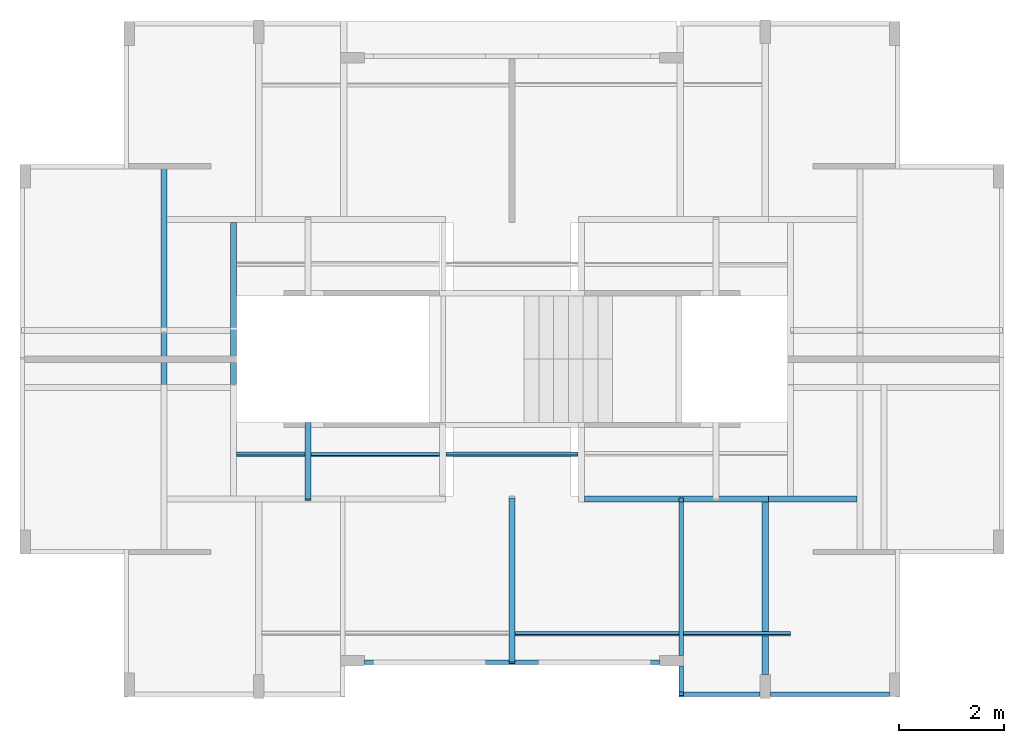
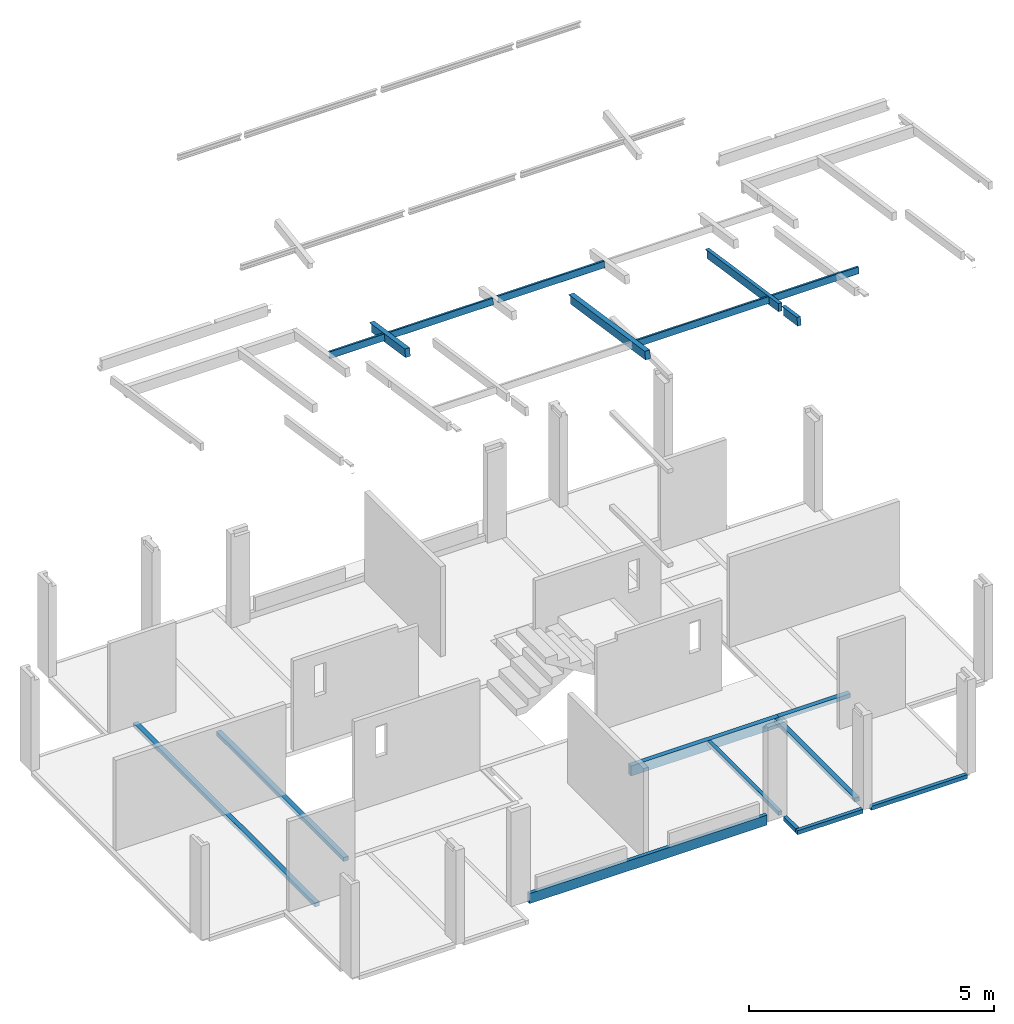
# One storey, part 2 of 9: 16 beams.
"""IFC4 building model written with IfcOpenShell, lengths in metres."""

from ifc_helpers import new_model, entity, si_unit, converted_unit, derived_unit, direction, frame, origin, place, context, subcontext, project, spatial, line, arc, indexed_curve, outline, extrude, source, transform, mapped, material, type_object, type_shapes, element, save


model = new_model("IFC4")

# Units and contexts
model_context = context("Model", 3, precision=1e-05, world=origin(), true_north=direction((6.123031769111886e-17, 1.0)))
body_context = subcontext(model_context, "Body", "Model", "MODEL_VIEW")
ifc_project = project(units=[si_unit("LENGTHUNIT", "METRE"), si_unit("AREAUNIT", "SQUARE_METRE"), si_unit("VOLUMEUNIT", "CUBIC_METRE"), converted_unit("PLANEANGLEUNIT", "DEGREE", entity("IfcRatioMeasure", 0.017453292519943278), si_unit("PLANEANGLEUNIT", "RADIAN"), dimensions=[0, 0, 0, 0, 0, 0, 0]), si_unit("MASSUNIT", "GRAM", prefix="KILO"), derived_unit("MASSDENSITYUNIT", [(si_unit("MASSUNIT", "GRAM", prefix="KILO"), 1), (si_unit("LENGTHUNIT", "METRE"), -3)]), derived_unit("IONCONCENTRATIONUNIT", [(si_unit("MASSUNIT", "GRAM", prefix="KILO"), 1), (si_unit("LENGTHUNIT", "METRE"), -3)]), derived_unit("MOMENTOFINERTIAUNIT", [(si_unit("LENGTHUNIT", "METRE"), 4)]), si_unit("TIMEUNIT", "SECOND"), si_unit("FREQUENCYUNIT", "HERTZ"), si_unit("THERMODYNAMICTEMPERATUREUNIT", "DEGREE_CELSIUS"), derived_unit("THERMALTRANSMITTANCEUNIT", [(si_unit("MASSUNIT", "GRAM", prefix="KILO"), 1), (si_unit("THERMODYNAMICTEMPERATUREUNIT", "KELVIN"), -1), (si_unit("TIMEUNIT", "SECOND"), -3)]), derived_unit("THERMALCONDUCTANCEUNIT", [(si_unit("MASSUNIT", "GRAM", prefix="KILO"), 1), (si_unit("THERMODYNAMICTEMPERATUREUNIT", "KELVIN"), -1), (si_unit("TIMEUNIT", "SECOND"), -3), (si_unit("LENGTHUNIT", "METRE"), 1)]), derived_unit("VOLUMETRICFLOWRATEUNIT", [(si_unit("LENGTHUNIT", "METRE"), 3), (si_unit("TIMEUNIT", "SECOND"), -1)]), derived_unit("MASSFLOWRATEUNIT", [(si_unit("MASSUNIT", "GRAM", prefix="KILO"), 1), (si_unit("TIMEUNIT", "SECOND"), -1)]), derived_unit("ROTATIONALFREQUENCYUNIT", [(si_unit("TIMEUNIT", "SECOND"), -1)]), si_unit("ELECTRICCURRENTUNIT", "AMPERE"), si_unit("ELECTRICVOLTAGEUNIT", "VOLT"), si_unit("POWERUNIT", "WATT"), si_unit("FORCEUNIT", "NEWTON", prefix="KILO"), si_unit("ILLUMINANCEUNIT", "LUX"), si_unit("LUMINOUSFLUXUNIT", "LUMEN"), si_unit("LUMINOUSINTENSITYUNIT", "CANDELA"), derived_unit("USERDEFINED", [(si_unit("MASSUNIT", "GRAM", prefix="KILO"), -1), (si_unit("LENGTHUNIT", "METRE"), -2), (si_unit("TIMEUNIT", "SECOND"), 3), (si_unit("LUMINOUSFLUXUNIT", "LUMEN"), 1)]), derived_unit("USERDEFINED", [(si_unit("MASSUNIT", "GRAM", prefix="KILO"), 1), (si_unit("TIMEUNIT", "SECOND"), -3), (si_unit("LENGTHUNIT", "METRE"), 3), (si_unit("ELECTRICCURRENTUNIT", "AMPERE"), -2)]), derived_unit("SOUNDPOWERUNIT", [(si_unit("MASSUNIT", "GRAM", prefix="KILO"), 1), (si_unit("TIMEUNIT", "SECOND"), -3), (si_unit("LENGTHUNIT", "METRE"), 2)]), derived_unit("SOUNDPRESSUREUNIT", [(si_unit("MASSUNIT", "GRAM", prefix="KILO"), 1), (si_unit("LENGTHUNIT", "METRE"), -1), (si_unit("TIMEUNIT", "SECOND"), -2)]), derived_unit("LINEARVELOCITYUNIT", [(si_unit("LENGTHUNIT", "METRE"), 1), (si_unit("TIMEUNIT", "SECOND"), -1)]), si_unit("PRESSUREUNIT", "PASCAL"), derived_unit("USERDEFINED", [(si_unit("MASSUNIT", "GRAM", prefix="KILO"), 1), (si_unit("LENGTHUNIT", "METRE"), -2), (si_unit("TIMEUNIT", "SECOND"), -2)]), derived_unit("LINEARFORCEUNIT", [(si_unit("MASSUNIT", "GRAM", prefix="KILO"), 1), (si_unit("TIMEUNIT", "SECOND"), -2)]), derived_unit("PLANARFORCEUNIT", [(si_unit("MASSUNIT", "GRAM", prefix="KILO"), 1), (si_unit("LENGTHUNIT", "METRE"), -1), (si_unit("TIMEUNIT", "SECOND"), -2)]), derived_unit("SPECIFICHEATCAPACITYUNIT", [(si_unit("THERMODYNAMICTEMPERATUREUNIT", "KELVIN"), -1), (si_unit("LENGTHUNIT", "METRE"), 2), (si_unit("TIMEUNIT", "SECOND"), -2)]), derived_unit("HEATINGVALUEUNIT", [(si_unit("LENGTHUNIT", "METRE"), 2), (si_unit("TIMEUNIT", "SECOND"), -2)]), derived_unit("VAPORPERMEABILITYUNIT", [(si_unit("LENGTHUNIT", "METRE"), -1), (si_unit("TIMEUNIT", "SECOND"), 1)]), derived_unit("DYNAMICVISCOSITYUNIT", [(si_unit("MASSUNIT", "GRAM", prefix="KILO"), 1), (si_unit("TIMEUNIT", "SECOND"), -1), (si_unit("LENGTHUNIT", "METRE"), -1)]), derived_unit("THERMALEXPANSIONCOEFFICIENTUNIT", [(si_unit("THERMODYNAMICTEMPERATUREUNIT", "KELVIN"), -1)]), derived_unit("MODULUSOFELASTICITYUNIT", [(si_unit("MASSUNIT", "GRAM", prefix="KILO"), 1), (si_unit("LENGTHUNIT", "METRE"), -1), (si_unit("TIMEUNIT", "SECOND"), -2)]), derived_unit("ISOTHERMALMOISTURECAPACITYUNIT", [(si_unit("LENGTHUNIT", "METRE"), 3), (si_unit("MASSUNIT", "GRAM", prefix="KILO"), -1)]), derived_unit("MOISTUREDIFFUSIVITYUNIT", [(si_unit("TIMEUNIT", "SECOND"), -1), (si_unit("LENGTHUNIT", "METRE"), 2)])], contexts=[model_context])

# Site, building, storey
site_placement = place(None, origin())
site = spatial("IfcSite", under=ifc_project, at=site_placement, Name="Default", CompositionType="ELEMENT")
building_placement = place(site_placement, origin())
building = spatial("IfcBuilding", under=site, at=building_placement, Name="Las nubes", CompositionType="ELEMENT")
storey_placement = place(building_placement, frame((0.0, 0.0, 2.3500000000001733)))
storey = spatial("IfcBuildingStorey", under=building, at=storey_placement, Name="PISO 2", CompositionType="ELEMENT", Elevation=2.3500000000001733)

# Beams
ifc_material_1 = material(Name="Concrete, Cast In Situ", Category="Materials")
beam_type_1 = type_object("IfcBeamType", Name="M_Concrete-Rectangular Beam:(0.085x0.25)", PredefinedType="BEAM", material=ifc_material_1)
shared_shape_1 = source(origin(), body_context, "Body", "SweptSolid", [
    extrude(outline(indexed_curve([(-0.12500000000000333, -0.04249999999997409), (0.1249999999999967, -0.04250000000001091), (0.12500000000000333, 0.04249999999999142), (-0.1249999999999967, 0.042500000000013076), (-0.12500000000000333, -0.04249999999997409)], self_intersect=False)), frame((6.517499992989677, -12.18250002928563, 2.3750000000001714), z_axis=(1.0, 0.0, 0.0), x_axis=(0.0, 0.0, -1.0)), (0.0, 0.0, 1.0), 5.6100000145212),
])
type_shapes(beam_type_1, [shared_shape_1])
beam_1_placement = place(storey_placement, frame((0.0, 0.0, -2.3500000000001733)))
element("IfcBeam", 1, at=beam_1_placement, inside=storey, type_object=beam_type_1, material=ifc_material_1, Name="M_Concrete-Rectangular Beam:(0.085x0.25)", ObjectType="M_Concrete-Rectangular Beam:(0.085x0.25)", PredefinedType="BEAM", context=body_context, shape_type="MappedRepresentation", body=[
    mapped(shared_shape_1, transform((0.0, 0.0, 0.0), scale=1.0)),
])
ifc_material_2 = material(Name="Concrete - Cast-in-Place Concrete - 28 MPa SLAB", Category="Materials")
beam_type_2 = type_object("IfcBeamType", Name="M_Concrete-Rectangular Beam:(0.085x0.10)", PredefinedType="BEAM", material=ifc_material_2)
shared_shape_2 = source(origin(), body_context, "Body", "SweptSolid", [
    extrude(outline(indexed_curve([(-0.050000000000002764, -0.04249999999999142), (0.04999999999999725, -0.042500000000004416), (0.050000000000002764, 0.04249999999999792), (-0.04999999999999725, 0.042500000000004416), (-0.050000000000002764, -0.04249999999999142)], self_intersect=False)), frame((14.235000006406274, -12.797498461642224, 2.3000000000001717), z_axis=(1.0, 0.0, 0.0), x_axis=(0.0, 0.0, -1.0)), (0.0, 0.0, 1.0), 2.2624999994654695),
    extrude(outline(indexed_curve([(-0.05000000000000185, -0.04249999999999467), (0.04999999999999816, -0.042500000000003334), (0.05000000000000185, 0.042499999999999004), (-0.04999999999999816, 0.042500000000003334), (-0.05000000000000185, -0.04249999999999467)], self_intersect=False)), frame((12.49250000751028, -12.797498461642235, 2.3000000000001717), z_axis=(1.0, 0.0, 0.0), x_axis=(0.0, 0.0, -1.0)), (0.0, 0.0, 1.0), 1.5424999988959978),
])
type_shapes(beam_type_2, [shared_shape_2])
beam_2_placement = place(storey_placement, frame((0.0, 0.0, -2.3500000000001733)))
element("IfcBeam", 2, at=beam_2_placement, inside=storey, type_object=beam_type_2, material=ifc_material_2, Name="M_Concrete-Rectangular Beam:(0.085x0.10)", ObjectType="M_Concrete-Rectangular Beam:(0.085x0.10)", PredefinedType="BEAM", context=body_context, shape_type="MappedRepresentation", body=[
    mapped(shared_shape_2, transform((0.0, 0.0, 0.0), scale=1.0)),
])
beam_type_3 = type_object("IfcBeamType", Name="M_Concrete-Rectangular Beam:(0.115x0.25)", PredefinedType="BEAM", material=ifc_material_2)
shared_shape_3 = source(origin(), body_context, "Body", "SweptSolid", [
    extrude(outline(indexed_curve([(-0.12500000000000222, -0.057499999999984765), (0.12499999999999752, -0.05750000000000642), (0.1250000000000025, 0.05749999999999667), (-0.12499999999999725, 0.0575000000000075), (-0.12500000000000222, -0.057499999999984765)], self_intersect=False)), frame((10.697499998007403, -9.082500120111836, 2.2250000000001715), z_axis=(1.0, 0.0, 0.0), x_axis=(0.0, 0.0, -1.0)), (0.0, 0.0, 1.0), 3.495000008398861),
])
type_shapes(beam_type_3, [shared_shape_3])
beam_3_placement = place(storey_placement, frame((0.0, 0.0, -2.3500000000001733)))
element("IfcBeam", 3, at=beam_3_placement, inside=storey, type_object=beam_type_3, material=ifc_material_2, Name="M_Concrete-Rectangular Beam:(0.115x0.25)", ObjectType="M_Concrete-Rectangular Beam:(0.115x0.25)", PredefinedType="BEAM", context=body_context, shape_type="MappedRepresentation", body=[
    mapped(shared_shape_3, transform((0.0, 0.0, 0.0), scale=1.0)),
])
beam_type_4 = type_object("IfcBeamType", Name="M_Concrete-Rectangular Beam:(0.115x0.10)", PredefinedType="BEAM", material=ifc_material_1)
shared_shape_4 = source(origin(), body_context, "Body", "SweptSolid", [
    extrude(outline(indexed_curve([(-0.05750000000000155, -0.05), (0.05750000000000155, -0.05), (0.05750000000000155, 0.05), (-0.05750000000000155, 0.05), (-0.05750000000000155, -0.05)], self_intersect=False)), frame((2.710001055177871, -10.140000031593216, 2.3000000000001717), z_axis=(0.0, 1.0, 0.0), x_axis=(-1.0, 0.0, 0.0)), (0.0, 0.0, 1.0), 7.430000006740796),
])
type_shapes(beam_type_4, [shared_shape_4])
beam_4_placement = place(storey_placement, frame((0.0, 0.0, -2.3500000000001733)))
element("IfcBeam", 4, at=beam_4_placement, inside=storey, type_object=beam_type_4, material=ifc_material_1, Name="M_Concrete-Rectangular Beam:(0.115x0.10)", ObjectType="M_Concrete-Rectangular Beam:(0.115x0.10)", PredefinedType="BEAM", context=body_context, shape_type="MappedRepresentation", body=[
    mapped(shared_shape_4, transform((0.0, 0.0, 0.0), scale=1.0)),
])
beam_type_5 = type_object("IfcBeamType", Name="M_Concrete-Rectangular Beam:(0.115x0.10)", PredefinedType="BEAM", material=ifc_material_1)
shared_shape_5 = source(origin(), body_context, "Body", "SweptSolid", [
    extrude(outline(indexed_curve([(-0.05750000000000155, -0.05), (0.05750000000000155, -0.05), (0.05750000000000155, 0.05), (-0.05750000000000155, 0.05), (-0.05750000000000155, -0.05)], self_intersect=False)), frame((4.029999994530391, -9.025000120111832, 2.3000000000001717), z_axis=(0.0, 1.0, 0.0), x_axis=(-1.0, 0.0, 0.0)), (0.0, 0.0, 1.0), 5.200000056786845),
])
type_shapes(beam_type_5, [shared_shape_5])
beam_5_placement = place(storey_placement, frame((0.0, 0.0, -2.3500000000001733)))
element("IfcBeam", 5, at=beam_5_placement, inside=storey, type_object=beam_type_5, material=ifc_material_1, Name="M_Concrete-Rectangular Beam:(0.115x0.10)", ObjectType="M_Concrete-Rectangular Beam:(0.115x0.10)", PredefinedType="BEAM", context=body_context, shape_type="MappedRepresentation", body=[
    mapped(shared_shape_5, transform((0.0, 0.0, 0.0), scale=1.0)),
])
beam_type_6 = type_object("IfcBeamType", Name="M_Concrete-Rectangular Beam:(0.115x0.10)", PredefinedType="BEAM", material=ifc_material_2)
shared_shape_6 = source(origin(), body_context, "Body", "SweptSolid", [
    extrude(outline(indexed_curve([(-0.05000000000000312, -0.057499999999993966), (0.049999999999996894, -0.0575000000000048), (0.05000000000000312, 0.0574999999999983), (-0.049999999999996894, 0.057500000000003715), (-0.05000000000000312, -0.057499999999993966)], self_intersect=False)), frame((14.192500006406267, -9.082499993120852, 2.3000000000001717), z_axis=(1.0, 0.0, 0.0), x_axis=(0.0, 0.0, -1.0)), (0.0, 0.0, 1.0), 1.6849989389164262),
])
type_shapes(beam_type_6, [shared_shape_6])
beam_6_placement = place(storey_placement, frame((0.0, 0.0, -2.3500000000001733)))
element("IfcBeam", 6, at=beam_6_placement, inside=storey, type_object=beam_type_6, material=ifc_material_2, Name="M_Concrete-Rectangular Beam:(0.115x0.10)", ObjectType="M_Concrete-Rectangular Beam:(0.115x0.10)", PredefinedType="BEAM", context=body_context, shape_type="MappedRepresentation", body=[
    mapped(shared_shape_6, transform((0.0, 0.0, 0.0), scale=1.0)),
])
beam_type_7 = type_object("IfcBeamType", Name="M_Concrete-Rectangular Beam:(0.085x0.10)", PredefinedType="BEAM", material=ifc_material_2)
shared_shape_7 = source(origin(), body_context, "Body", "SweptSolid", [
    extrude(outline(indexed_curve([(-0.04250000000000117, -0.05), (0.04250000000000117, -0.05), (0.04250000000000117, 0.05), (-0.04250000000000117, 0.05), (-0.04250000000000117, -0.05)], self_intersect=False)), frame((12.535000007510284, -12.055000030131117, 2.3000000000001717), z_axis=(0.0, 1.0, 0.0), x_axis=(-1.0, 0.0, 0.0)), (0.0, 0.0, 1.0), 2.9149999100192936),
    extrude(outline(indexed_curve([(-0.04250000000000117, -0.05), (0.042499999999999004, -0.05), (0.04250000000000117, 0.05), (-0.042500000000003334, 0.05), (-0.04250000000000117, -0.05)], self_intersect=False)), frame((12.535000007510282, -12.754998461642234, 2.3000000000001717), z_axis=(0.0, 1.0, 0.0), x_axis=(-1.0, 0.0, 0.0)), (0.0, 0.0, 1.0), 0.4999984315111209),
])
type_shapes(beam_type_7, [shared_shape_7])
beam_7_placement = place(storey_placement, frame((0.0, 0.0, -2.3500000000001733)))
element("IfcBeam", 7, at=beam_7_placement, inside=storey, type_object=beam_type_7, material=ifc_material_2, Name="M_Concrete-Rectangular Beam:(0.085x0.10)", ObjectType="M_Concrete-Rectangular Beam:(0.085x0.10)", PredefinedType="BEAM", context=body_context, shape_type="MappedRepresentation", body=[
    mapped(shared_shape_7, transform((0.0, 0.0, 0.0), scale=1.0)),
])
beam_type_8 = type_object("IfcBeamType", Name="M_Concrete-Rectangular Beam:(0.115x0.10)", PredefinedType="BEAM", material=ifc_material_1)
shared_shape_8 = source(origin(), body_context, "Body", "SweptSolid", [
    extrude(outline(indexed_curve([(-0.057500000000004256, -0.05), (0.05750000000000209, -0.05), (0.05750000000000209, 0.05), (-0.05750000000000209, 0.05), (-0.057500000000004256, -0.05)], self_intersect=False)), frame((14.135000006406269, -12.420000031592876, 2.3000000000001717), z_axis=(0.0, 1.0, 0.0), x_axis=(-1.0, 0.0, 0.0)), (0.0, 0.0, 1.0), 3.2799999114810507),
])
type_shapes(beam_type_8, [shared_shape_8])
beam_8_placement = place(storey_placement, frame((0.0, 0.0, -2.3500000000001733)))
element("IfcBeam", 8, at=beam_8_placement, inside=storey, type_object=beam_type_8, material=ifc_material_1, Name="M_Concrete-Rectangular Beam:(0.115x0.10)", ObjectType="M_Concrete-Rectangular Beam:(0.115x0.10)", PredefinedType="BEAM", context=body_context, shape_type="MappedRepresentation", body=[
    mapped(shared_shape_8, transform((0.0, 0.0, 0.0), scale=1.0)),
])
ifc_material_3 = material(Name="Concrete - Cast-in-Place Concrete - 35 MPa", Category="Materials")
beam_type_9 = type_object("IfcBeamType", Name="M_Concrete-Rectangular Beam:(0.12x0.20)", PredefinedType="BEAM", material=ifc_material_3)
shared_shape_9 = source(origin(), body_context, "Body", "SweptSolid", [
    extrude(outline(indexed_curve([(-1.1506953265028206, -0.12493119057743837), (-1.1199368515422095, -0.12493119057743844), (-1.067607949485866, -0.12493119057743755), (1.9558424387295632, -0.12493119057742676), (1.9283901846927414, 0.05808383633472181), (1.9989857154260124, 0.06867316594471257), (1.9989857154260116, 0.0750688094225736), (-1.1077198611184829, 0.07506880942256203), (-1.1348534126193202, 0.07506880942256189), (-1.1506953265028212, 0.07506880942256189), (-1.1506953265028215, 0.07269252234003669), (-1.1506953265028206, -0.12493119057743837)], self_intersect=False)), frame((9.262500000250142, -11.05567133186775, 14.804817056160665), z_axis=(1.0, 0.0, 0.0), x_axis=(0.0, 0.9889363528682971, -0.14834045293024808)), (0.0, 0.0, 1.0), 0.12000000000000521),
])
type_shapes(beam_type_9, [shared_shape_9])
beam_9_placement = place(storey_placement, frame((0.0, 0.0, -2.3500000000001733)))
element("IfcBeam", 9, at=beam_9_placement, inside=storey, type_object=beam_type_9, material=ifc_material_3, Name="M_Concrete-Rectangular Beam:(0.12x0.20)", ObjectType="M_Concrete-Rectangular Beam:(0.12x0.20)", PredefinedType="BEAM", context=body_context, shape_type="MappedRepresentation", body=[
    mapped(shared_shape_9, transform((0.0, 0.0, 0.0), scale=1.0)),
])
beam_type_10 = type_object("IfcBeamType", Name="M_Concrete-Rectangular Beam:(0.085x0.20)", PredefinedType="BEAM", material=ifc_material_1)
shared_shape_10 = source(origin(), body_context, "Body", "SweptSolid", [
    extrude(outline(indexed_curve([(-1.0208746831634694, -0.07056343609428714), (1.9998799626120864, -0.07056343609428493), (1.9698799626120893, 0.12943656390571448), (-0.9777314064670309, 0.12943656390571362), (-0.9502791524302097, -0.053578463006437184), (-1.02087468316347, -0.06416779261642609), (-1.0208746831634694, -0.07056343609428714)], self_intersect=False)), frame((12.492500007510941, -10.08771344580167, 14.664179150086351), z_axis=(1.0, 0.0, 0.0), x_axis=(0.0, -0.9889363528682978, 0.1483404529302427)), (0.0, 0.0, 1.0), 0.08500000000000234),
    extrude(outline(indexed_curve([(-0.3588825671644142, -0.11789851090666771), (0.23485442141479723, -0.11789851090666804), (0.20643053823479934, 0.07159404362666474), (0.2764801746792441, 0.08210148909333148), (-0.35888256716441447, 0.08210148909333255), (-0.3588825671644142, -0.11789851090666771)], self_intersect=False)), frame((12.492500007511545, -12.469766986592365, 15.009820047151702), z_axis=(1.0, 0.0, 0.0), x_axis=(0.0, 0.9889363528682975, -0.14834045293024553)), (0.0, 0.0, 1.0), 0.08500000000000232),
])
type_shapes(beam_type_10, [shared_shape_10])
beam_10_placement = place(storey_placement, frame((0.0, 0.0, -2.3500000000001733)))
element("IfcBeam", 10, at=beam_10_placement, inside=storey, type_object=beam_type_10, material=ifc_material_1, Name="M_Concrete-Rectangular Beam:(0.085x0.20)", ObjectType="M_Concrete-Rectangular Beam:(0.085x0.20)", PredefinedType="BEAM", context=body_context, shape_type="MappedRepresentation", body=[
    mapped(shared_shape_10, transform((0.0, 0.0, 0.0), scale=1.0)),
])
beam_type_11 = type_object("IfcBeamType", Name="M_Concrete-Rectangular Beam:(0.115x0.20)", PredefinedType="BEAM", material=ifc_material_1)
shared_shape_11 = source(origin(), body_context, "Body", "SweptSolid", [
    extrude(outline(indexed_curve([(-0.953189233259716, -0.1307775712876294), (0.44949765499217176, -0.13077757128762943), (0.4217264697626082, 0.05436366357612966), (0.5176128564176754, 0.06874662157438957), (0.5175414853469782, 0.06922242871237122), (-0.953189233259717, 0.06922242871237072), (-0.953189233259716, -0.1307775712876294)], self_intersect=False)), frame((5.387499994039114, -8.150124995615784, 14.374896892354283), z_axis=(1.0, 0.0, 0.0), x_axis=(0.0, 0.9889363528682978, -0.14834045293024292)), (0.0, 0.0, 1.0), 0.11500000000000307),
])
type_shapes(beam_type_11, [shared_shape_11])
beam_11_placement = place(storey_placement, frame((0.0, 0.0, -2.3500000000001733)))
element("IfcBeam", 11, at=beam_11_placement, inside=storey, type_object=beam_type_11, material=ifc_material_1, Name="M_Concrete-Rectangular Beam:(0.115x0.20)", ObjectType="M_Concrete-Rectangular Beam:(0.115x0.20)", PredefinedType="BEAM", context=body_context, shape_type="MappedRepresentation", body=[
    mapped(shared_shape_11, transform((0.0, 0.0, 0.0), scale=1.0)),
])
ifc_material_4 = material(Name="Steel - 300+", Category="Materials")
beam_type_12 = type_object("IfcBeamType", Name="AUS-C Purlin:CR-1", PredefinedType="BEAM", material=ifc_material_4)
shared_shape_12 = source(origin(), body_context, "Body", "SweptSolid", [
    extrude(outline(indexed_curve([(-0.07614999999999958, -0.023850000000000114), (-0.05965000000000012, -0.023850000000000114), (-0.05965000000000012, -0.02185000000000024), (-0.07615000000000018, -0.02185000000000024), (-0.07721066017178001, -0.021410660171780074), (-0.07765000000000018, -0.020350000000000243), (-0.0776500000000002, 0.03265000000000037), (-0.07721066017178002, 0.033710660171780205), (-0.07615000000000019, 0.03415000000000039), (0.07334999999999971, 0.03415000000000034), (0.07688553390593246, 0.03268553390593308), (0.07834999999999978, 0.029150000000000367), (0.07834999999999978, -0.02035000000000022), (0.07791066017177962, -0.021410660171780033), (0.0768499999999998, -0.02185000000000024), (0.060349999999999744, -0.02185000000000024), (0.060349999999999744, -0.023850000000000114), (0.07685000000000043, -0.023850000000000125), (0.07932487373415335, -0.022824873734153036), (0.08035000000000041, -0.020350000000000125), (0.08035000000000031, 0.029149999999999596), (0.07829974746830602, 0.034099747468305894), (0.0733499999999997, 0.03615000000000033), (-0.07614999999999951, 0.036150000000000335), (-0.07862487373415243, 0.03512487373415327), (-0.07964999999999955, 0.032650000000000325), (-0.0796499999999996, -0.020350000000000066), (-0.07862487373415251, -0.02282487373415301)], segments=[line(1, 2, 3, 4), arc(4, 5, 6), line(6, 7), arc(7, 8, 9), line(9, 10), arc(10, 11, 12), line(12, 13), arc(13, 14, 15), line(15, 16, 17, 18), arc(18, 19, 20), line(20, 21), arc(21, 22, 23), line(23, 24), arc(24, 25, 26), line(26, 27), arc(27, 28, 1)], self_intersect=False)), frame((-1.0395378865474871, -0.03415000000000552, 0.0003499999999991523), z_axis=(1.0, 0.0, 0.0), x_axis=(0.0, 0.0, -1.0)), (0.0, 0.0, 1.0), 2.0355439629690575),
])
type_shapes(beam_type_12, [shared_shape_12])
beam_12_placement = place(storey_placement, frame((13.575000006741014, -11.671145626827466, 12.54215184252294), z_axis=(0.0, 0.14834045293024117, 0.9889363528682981), x_axis=(-1.0, 0.0, 0.0)))
element("IfcBeam", 12, at=beam_12_placement, inside=storey, type_object=beam_type_12, material=ifc_material_4, Name="AUS-C Purlin:CR-1", ObjectType="AUS-C Purlin:CR-1", PredefinedType="BEAM", context=body_context, shape_type="MappedRepresentation", body=[
    mapped(shared_shape_12, transform((0.0, 0.0, 0.0), scale=1.0)),
])
beam_type_13 = type_object("IfcBeamType", Name="AUS-C Purlin:CR-1", PredefinedType="BEAM", material=ifc_material_4)
shared_shape_13 = source(origin(), body_context, "Body", "SweptSolid", [
    extrude(outline(indexed_curve([(-0.0761499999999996, -0.03615000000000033), (0.07334999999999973, -0.036150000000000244), (0.07829974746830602, -0.03409974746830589), (0.0803500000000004, -0.02914999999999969), (0.08035000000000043, 0.020350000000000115), (0.07932487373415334, 0.022824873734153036), (0.07685000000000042, 0.023850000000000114), (0.060349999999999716, 0.023850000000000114), (0.060349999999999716, 0.02185000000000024), (0.07684999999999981, 0.02185000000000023), (0.07791066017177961, 0.021410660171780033), (0.07834999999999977, 0.020350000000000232), (0.07834999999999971, -0.029150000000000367), (0.07688553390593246, -0.032685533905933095), (0.0733499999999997, -0.03415000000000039), (-0.0761500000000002, -0.03415000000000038), (-0.07721066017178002, -0.033710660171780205), (-0.0776500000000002, -0.03265000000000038), (-0.0776500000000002, 0.02035000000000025), (-0.07721066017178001, 0.021410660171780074), (-0.0761500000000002, 0.02185000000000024), (-0.059650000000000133, 0.02185000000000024), (-0.059650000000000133, 0.023850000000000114), (-0.0761499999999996, 0.023850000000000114), (-0.07862487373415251, 0.02282487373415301), (-0.07964999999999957, 0.020350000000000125), (-0.07964999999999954, -0.032650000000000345), (-0.07862487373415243, -0.03512487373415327)], segments=[line(1, 2), arc(2, 3, 4), line(4, 5), arc(5, 6, 7), line(7, 8, 9, 10), arc(10, 11, 12), line(12, 13), arc(13, 14, 15), line(15, 16), arc(16, 17, 18), line(18, 19), arc(19, 20, 21), line(21, 22, 23, 24), arc(24, 25, 26), line(26, 27), arc(27, 28, 1)], self_intersect=False)), frame((-1.2217510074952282, 0.03415000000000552, 0.00034999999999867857), z_axis=(1.0, 0.0, 0.0), x_axis=(0.0, 0.0, -1.0)), (0.0, 0.0, 1.0), 2.443172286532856),
])
type_shapes(beam_type_13, [shared_shape_13])
beam_13_placement = place(storey_placement, frame((6.724999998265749, -8.264557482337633, 12.031163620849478), z_axis=(0.0, 0.14834045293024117, 0.9889363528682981), x_axis=(1.0, 0.0, 0.0)))
element("IfcBeam", 13, at=beam_13_placement, inside=storey, type_object=beam_type_13, material=ifc_material_4, Name="AUS-C Purlin:CR-1", ObjectType="AUS-C Purlin:CR-1", PredefinedType="BEAM", context=body_context, shape_type="MappedRepresentation", body=[
    mapped(shared_shape_13, transform((0.0, 0.0, 0.0), scale=1.0)),
])
beam_type_14 = type_object("IfcBeamType", Name="AUS-C Purlin:CR-1", PredefinedType="BEAM", material=ifc_material_4)
shared_shape_14 = source(origin(), body_context, "Body", "SweptSolid", [
    extrude(outline(indexed_curve([(-0.07614999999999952, -0.03615000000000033), (0.07334999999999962, -0.036150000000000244), (0.0782997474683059, -0.03409974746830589), (0.08035000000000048, -0.02914999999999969), (0.08035000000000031, 0.020350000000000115), (0.07932487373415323, 0.022824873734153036), (0.07685000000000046, 0.023850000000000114), (0.06034999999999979, 0.023850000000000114), (0.06034999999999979, 0.02185000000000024), (0.07684999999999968, 0.02185000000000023), (0.07791066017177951, 0.02141066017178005), (0.07834999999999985, 0.020350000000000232), (0.0783499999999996, -0.029150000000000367), (0.07688553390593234, -0.032685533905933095), (0.07334999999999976, -0.03415000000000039), (-0.07615000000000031, -0.03415000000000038), (-0.07721066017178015, -0.033710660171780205), (-0.07765000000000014, -0.03265000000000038), (-0.07765000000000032, 0.02035000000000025), (-0.07721066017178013, 0.021410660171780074), (-0.07615000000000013, 0.02185000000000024), (-0.05965000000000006, 0.02185000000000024), (-0.05965000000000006, 0.023850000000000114), (-0.0761499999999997, 0.023850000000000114), (-0.07862487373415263, 0.022824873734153), (-0.07964999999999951, 0.020350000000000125), (-0.07964999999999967, -0.032650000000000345), (-0.07862487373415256, -0.03512487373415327)], segments=[line(1, 2), arc(2, 3, 4), line(4, 5), arc(5, 6, 7), line(7, 8, 9, 10), arc(10, 11, 12), line(12, 13), arc(13, 14, 15), line(15, 16), arc(16, 17, 18), line(18, 19), arc(19, 20, 21), line(21, 22, 23, 24), arc(24, 25, 26), line(26, 27), arc(27, 28, 1)], self_intersect=False)), frame((-1.257024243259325, 0.03415000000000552, 0.00034999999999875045), z_axis=(1.0, 0.0, 0.0), x_axis=(0.0, 0.0, -1.0)), (0.0, 0.0, 1.0), 2.5139970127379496),
])
type_shapes(beam_type_14, [shared_shape_14])
beam_14_placement = place(storey_placement, frame((9.322500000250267, -8.257956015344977, 12.030173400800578), z_axis=(0.0, 0.14834045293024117, 0.9889363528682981), x_axis=(1.0, 0.0, 0.0)))
element("IfcBeam", 14, at=beam_14_placement, inside=storey, type_object=beam_type_14, material=ifc_material_4, Name="AUS-C Purlin:CR-1", ObjectType="AUS-C Purlin:CR-1", PredefinedType="BEAM", context=body_context, shape_type="MappedRepresentation", body=[
    mapped(shared_shape_14, transform((0.0, 0.0, 0.0), scale=1.0)),
])
beam_type_15 = type_object("IfcBeamType", Name="AUS-C Purlin:CR-1", PredefinedType="BEAM", material=ifc_material_4)
shared_shape_15 = source(origin(), body_context, "Body", "SweptSolid", [
    extrude(outline(indexed_curve([(-0.07614999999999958, -0.03615000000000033), (0.0733499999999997, -0.036150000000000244), (0.07829974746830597, -0.03409974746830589), (0.08035000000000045, -0.02914999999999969), (0.08035000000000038, 0.020350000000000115), (0.0793248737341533, 0.022824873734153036), (0.07685000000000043, 0.023850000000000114), (0.060349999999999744, 0.023850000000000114), (0.060349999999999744, 0.02185000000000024), (0.07684999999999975, 0.02185000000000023), (0.07791066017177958, 0.02141066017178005), (0.07834999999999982, 0.020350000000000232), (0.07834999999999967, -0.029150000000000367), (0.0768855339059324, -0.032685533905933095), (0.07334999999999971, -0.03415000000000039), (-0.07615000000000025, -0.03415000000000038), (-0.07721066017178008, -0.033710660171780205), (-0.07765000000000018, -0.03265000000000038), (-0.07765000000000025, 0.02035000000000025), (-0.07721066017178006, 0.021410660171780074), (-0.07615000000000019, 0.02185000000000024), (-0.05965000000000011, 0.02185000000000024), (-0.05965000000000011, 0.023850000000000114), (-0.07614999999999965, 0.023850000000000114), (-0.07862487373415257, 0.02282487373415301), (-0.07964999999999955, 0.020350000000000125), (-0.0796499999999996, -0.032650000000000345), (-0.07862487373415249, -0.03512487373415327)], segments=[line(1, 2), arc(2, 3, 4), line(4, 5), arc(5, 6, 7), line(7, 8, 9, 10), arc(10, 11, 12), line(12, 13), arc(13, 14, 15), line(15, 16), arc(16, 17, 18), line(18, 19), arc(19, 20, 21), line(21, 22, 23, 24), arc(24, 25, 26), line(26, 27), arc(27, 28, 1)], self_intersect=False)), frame((-0.6492510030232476, 0.03415000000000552, 0.00034999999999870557), z_axis=(1.0, 0.0, 0.0), x_axis=(0.0, 0.0, -1.0)), (0.0, 0.0, 1.0), 1.2973507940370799),
])
type_shapes(beam_type_15, [shared_shape_15])
beam_15_placement = place(storey_placement, frame((4.737499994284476, -8.257956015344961, 12.030173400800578), z_axis=(0.0, 0.14834045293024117, 0.9889363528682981), x_axis=(1.0, 0.0, 0.0)))
element("IfcBeam", 15, at=beam_15_placement, inside=storey, type_object=beam_type_15, material=ifc_material_4, Name="AUS-C Purlin:CR-1", ObjectType="AUS-C Purlin:CR-1", PredefinedType="BEAM", context=body_context, shape_type="MappedRepresentation", body=[
    mapped(shared_shape_15, transform((0.0, 0.0, 0.0), scale=1.0)),
])
beam_type_16 = type_object("IfcBeamType", Name="AUS-C Purlin:CR-1", PredefinedType="BEAM", material=ifc_material_4)
shared_shape_16 = source(origin(), body_context, "Body", "SweptSolid", [
    extrude(outline(indexed_curve([(-0.07614999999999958, -0.023850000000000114), (-0.05965000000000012, -0.023850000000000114), (-0.05965000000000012, -0.02185000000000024), (-0.07615000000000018, -0.02185000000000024), (-0.07721066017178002, -0.021410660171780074), (-0.0776500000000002, -0.020350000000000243), (-0.07765000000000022, 0.03265000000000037), (-0.07721066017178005, 0.033710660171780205), (-0.07615000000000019, 0.03415000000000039), (0.07334999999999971, 0.03415000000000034), (0.07688553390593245, 0.03268553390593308), (0.07834999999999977, 0.029150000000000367), (0.07834999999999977, -0.02035000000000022), (0.07791066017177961, -0.021410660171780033), (0.07684999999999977, -0.02185000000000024), (0.060349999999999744, -0.02185000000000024), (0.060349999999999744, -0.023850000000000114), (0.07685000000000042, -0.023850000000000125), (0.07932487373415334, -0.022824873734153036), (0.0803500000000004, -0.020350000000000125), (0.0803500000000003, 0.029149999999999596), (0.078299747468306, 0.034099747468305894), (0.0733499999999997, 0.03615000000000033), (-0.07614999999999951, 0.036150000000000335), (-0.07862487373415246, 0.03512487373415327), (-0.07964999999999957, 0.032650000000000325), (-0.07964999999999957, -0.020350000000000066), (-0.07862487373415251, -0.022824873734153)], segments=[line(1, 2, 3, 4), arc(4, 5, 6), line(6, 7), arc(7, 8, 9), line(9, 10), arc(10, 11, 12), line(12, 13), arc(13, 14, 15), line(15, 16, 17, 18), arc(18, 19, 20), line(20, 21), arc(21, 22, 23), line(23, 24), arc(24, 25, 26), line(26, 27), arc(27, 28, 1)], self_intersect=False)), frame((-1.563287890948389, -0.03415000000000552, 0.0003499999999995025), z_axis=(1.0, 0.0, 0.0), x_axis=(0.0, 0.0, -1.0)), (0.0, 0.0, 1.0), 3.1089048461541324),
])
type_shapes(beam_type_16, [shared_shape_16])
beam_16_placement = place(storey_placement, frame((10.928750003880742, -11.671145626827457, 12.54215184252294), z_axis=(0.0, 0.14834045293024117, 0.9889363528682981), x_axis=(-1.0, 0.0, 0.0)))
element("IfcBeam", 16, at=beam_16_placement, inside=storey, type_object=beam_type_16, material=ifc_material_4, Name="AUS-C Purlin:CR-1", ObjectType="AUS-C Purlin:CR-1", PredefinedType="BEAM", context=body_context, shape_type="MappedRepresentation", body=[
    mapped(shared_shape_16, transform((0.0, 0.0, 0.0), scale=1.0)),
])

save(model, "model.ifc")
